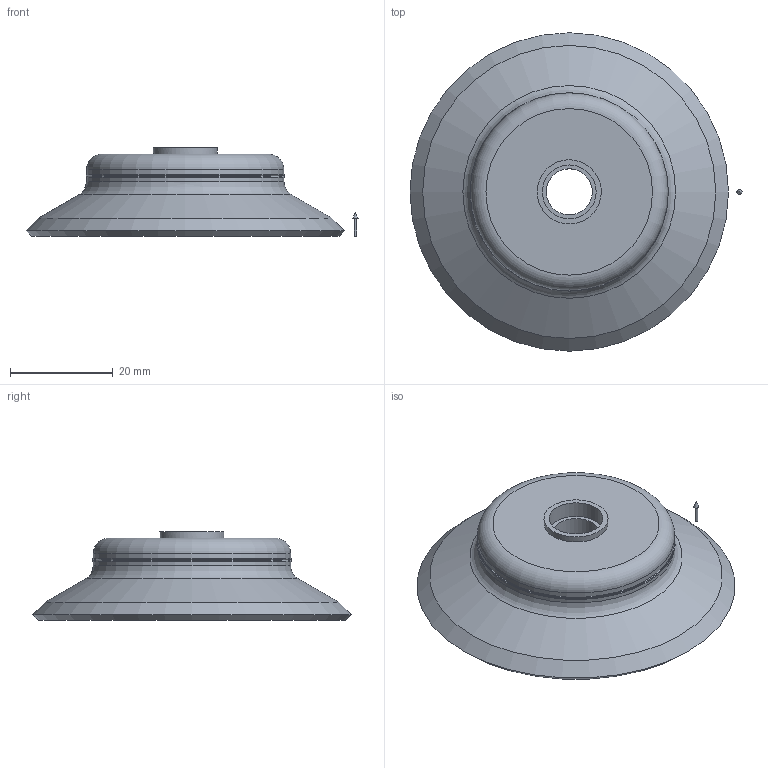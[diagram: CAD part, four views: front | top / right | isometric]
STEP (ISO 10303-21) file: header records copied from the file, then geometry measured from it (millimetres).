
FILE_DESCRIPTION(('STEP AP214'),'1');
FILE_NAME('CA.08.29.012.stp','2019-04-17T13:17:03',(' '),(' '),'Spatial InterOp 3D',' ',' ');
FILE_SCHEMA(('AUTOMOTIVE_DESIGN { 1 0 10303 214 1 1 1 1 }'));
Length unit declared in the file: millimetre
Products named in the file (1): 1
Bounding box: 64.76 x 62.12 x 17.25 mm (x, y, z)
Volume: 17007.6 mm3; surface area: 7849.8 mm2
Topology: 2 solids, 2 shells, 27 faces, 49 edges, 30 vertices
Faces by surface type: cylinder 9, plane 8, cone 6, torus 4
Full cylindrical faces by diameter (mm): 0.5 x1, 9 x1, 10.5 x2, 12.5 x2, 38.5 x3
Entity records: 839 total; most frequent: CARTESIAN_POINT 149, DIRECTION 106, AXIS2_PLACEMENT_3D 53, EDGE_LOOP 52, ORIENTED_EDGE 52, FACE_OUTER_BOUND 40, STYLED_ITEM 27, PRESENTATION_STYLE_ASSIGNMENT 27
